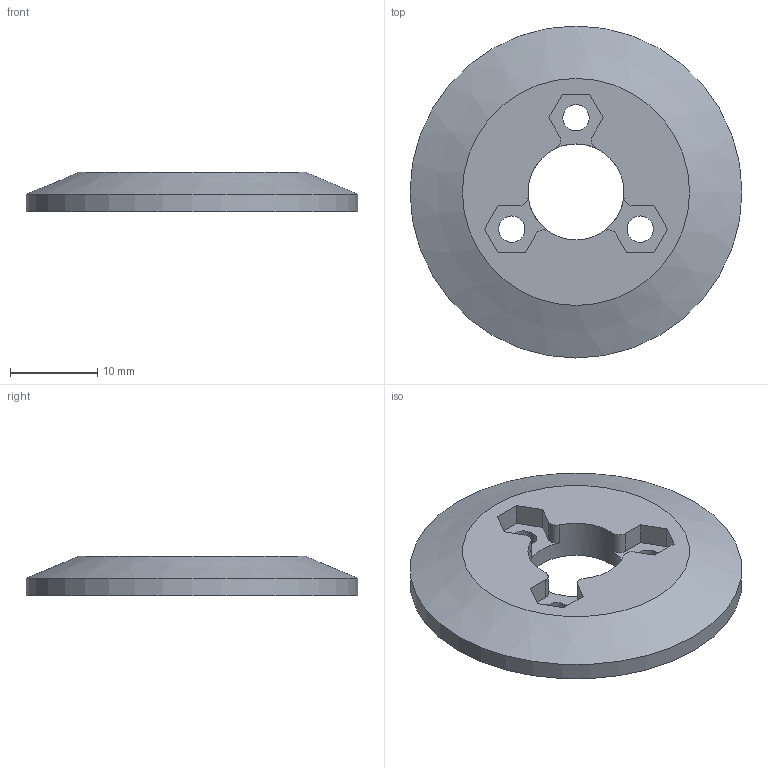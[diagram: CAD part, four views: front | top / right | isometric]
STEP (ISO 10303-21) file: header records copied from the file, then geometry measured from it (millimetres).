
FILE_DESCRIPTION(/* description */ ('CAx-IF Rec.Pracs.---Representation and Presentation of Product Manufacturing Information (PMI)---4.0---2014-10-13','CAx-IF Rec.Pracs.---3D Tessellated Geometry---0.4---2014-09-14','2;1'),/* implementation_level */ '2;1');
FILE_NAME(/* name */ 'qc1_p65',/* time_stamp */ '2026-07-26T03:28:25+03:00',/* author */ (''),/* organization */ (''),/* preprocessor_version */ 'ST-DEVELOPER v19.4',/* originating_system */ 'SIEMENS PLM Software NX2306.1700',/* authorisation */ $);
FILE_SCHEMA (('AP242_MANAGED_MODEL_BASED_3D_ENGINEERING_MIM_LF { 1 0 10303 442 3 1 4 }'));
Length unit declared in the file: millimetre
Products named in the file (1): qc1_p65
Bounding box: 38 x 38 x 4.5 mm (x, y, z)
Volume: 3630.4 mm3; surface area: 2632.2 mm2
Topology: 1 solids, 1 shells, 32 faces, 92 edges, 62 vertices
Faces by surface type: plane 20, cylinder 11, cone 1
Full cylindrical faces by diameter (mm): 3.01 x3, 11 x1, 38 x1
Entity records: 1032 total; most frequent: DIRECTION 176, CARTESIAN_POINT 173, ORIENTED_EDGE 164, EDGE_CURVE 82, AXIS2_PLACEMENT_3D 61, VERTEX_POINT 58, LINE 54, VECTOR 54
